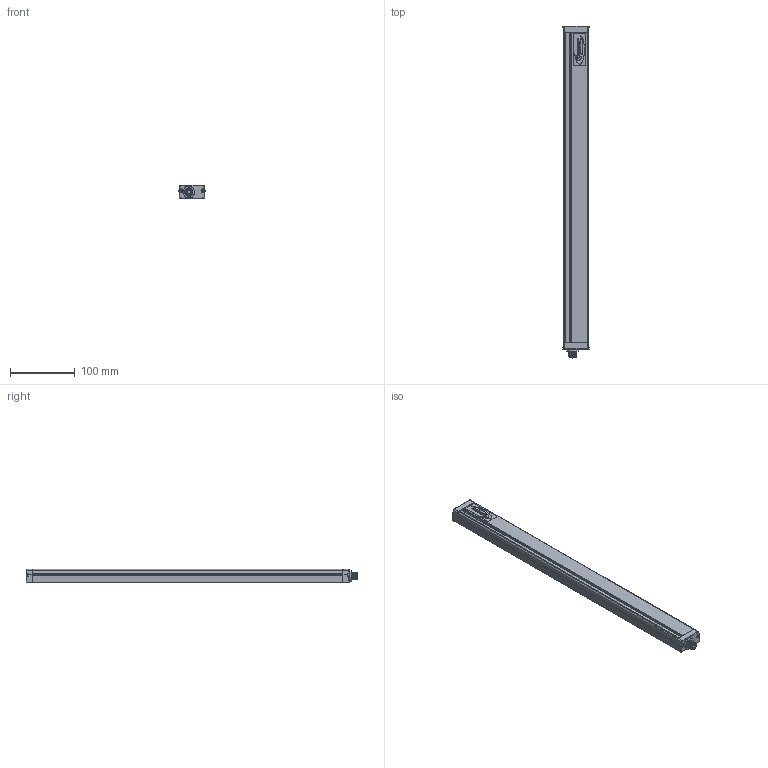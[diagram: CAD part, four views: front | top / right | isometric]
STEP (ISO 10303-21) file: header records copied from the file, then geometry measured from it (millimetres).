
FILE_DESCRIPTION(/* description */ (''),/* implementation_level */ '2;1');
FILE_NAME(/* name */ 'C:\Users\andre\SynologyDrive\Optoscan\Libreria Componenti\00 - Barriere\Barriera sorgente\Argo_480_TX.stp',/* time_stamp */ '2021-04-22T10:16:24+02:00',/* author */ ('andre'),/* organization */ (''),/* preprocessor_version */ 'ST-DEVELOPER v18',/* originating_system */ 'Autodesk Inventor 2020',/* authorisation */ '');
FILE_SCHEMA (('AUTOMOTIVE_DESIGN { 1 0 10303 214 3 1 1 }'));
Length unit declared in the file: millimetre
Products named in the file (1): Argo_480_TX
Bounding box: 40.5 x 513.3 x 20.75 mm (x, y, z)
Volume: 104939.8 mm3; surface area: 133523.9 mm2
Topology: 1 solids, 1 shells, 696 faces, 1911 edges, 1225 vertices
Faces by surface type: plane 321, cylinder 195, bspline 94, torus 72, cone 8, sphere 6
Full cylindrical faces by diameter (mm): 1 x4, 2.459 x4, 2.5 x4, 3 x4, 3.5 x4, 5.5 x4, 8 x1, 10.5 x2, 11.75 x9, 15.7 x1, 17.5 x1
Entity records: 30770 total; most frequent: CARTESIAN_POINT 12670, ORIENTED_EDGE 3806, DIRECTION 3415, EDGE_CURVE 1903, VERTEX_POINT 1225, AXIS2_PLACEMENT_3D 1193, LINE 1029, VECTOR 1029
